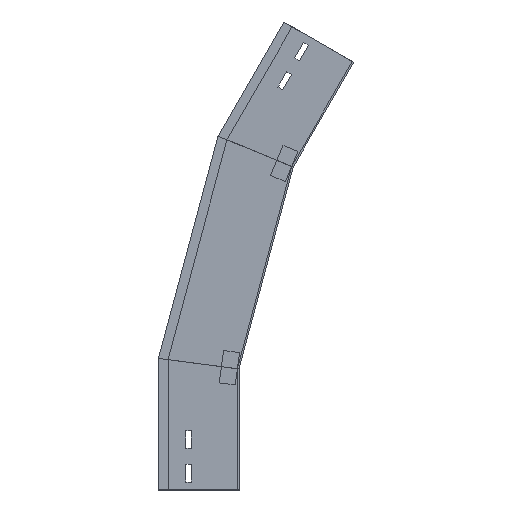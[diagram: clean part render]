
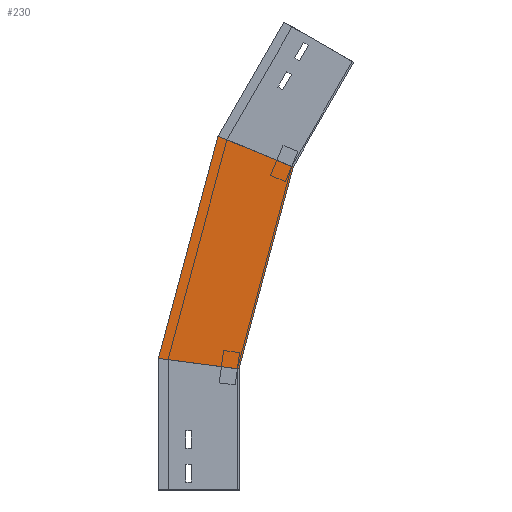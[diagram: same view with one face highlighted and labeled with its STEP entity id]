
A CAD part, left-side view. The second image highlights one B-rep face of the part: STEP entity #230.
In plain terms, the highlighted planar face has unit normal (-1, 0, 0) as drawn and (1, 0, 0) by its records, which use the part's own axes.
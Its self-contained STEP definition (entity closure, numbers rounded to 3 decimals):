
#6 = AXIS2_PLACEMENT_3D ( 'NONE', #614, #499, #31 ) ;
#31 = DIRECTION ( 'NONE',  ( 0., 0., -1. ) ) ;
#97 = DIRECTION ( 'NONE',  ( 0., -0.924, -0.383 ) ) ;
#142 = EDGE_LOOP ( 'NONE', ( #966, #1103, #287, #1403 ) ) ;
#201 = VERTEX_POINT ( 'NONE', #1292 ) ;
#230 = ADVANCED_FACE ( 'NONE', ( #250 ), #715, .T. ) ;
#241 = DIRECTION ( 'NONE',  ( 0., -0.259, 0.966 ) ) ;
#250 = FACE_OUTER_BOUND ( 'NONE', #142, .T. ) ;
#287 = ORIENTED_EDGE ( 'NONE', *, *, #992, .F. ) ;
#334 = CARTESIAN_POINT ( 'NONE',  ( 0., 0., 150. ) ) ;
#342 = LINE ( 'NONE', #702, #717 ) ;
#382 = VECTOR ( 'NONE', #779, 1000. ) ;
#487 = EDGE_CURVE ( 'NONE', #1460, #1183, #342, .T. ) ;
#499 = DIRECTION ( 'NONE',  ( 1., 0., 0. ) ) ;
#614 = CARTESIAN_POINT ( 'NONE',  ( 0., 3.774, 135.915 ) ) ;
#622 = EDGE_CURVE ( 'NONE', #201, #1460, #1232, .T. ) ;
#632 = VECTOR ( 'NONE', #241, 1000. ) ;
#643 = CARTESIAN_POINT ( 'NONE',  ( 0., -67.034, 400.175 ) ) ;
#702 = CARTESIAN_POINT ( 'NONE',  ( 0., -100.025, 386.509 ) ) ;
#715 = PLANE ( 'NONE',  #6 ) ;
#717 = VECTOR ( 'NONE', #97, 1000. ) ;
#752 = VECTOR ( 'NONE', #822, 1000. ) ;
#772 = CARTESIAN_POINT ( 'NONE',  ( 0., 100.367, 161.797 ) ) ;
#779 = DIRECTION ( 'NONE',  ( 0., -0.259, 0.966 ) ) ;
#815 = LINE ( 'NONE', #928, #632 ) ;
#822 = DIRECTION ( 'NONE',  ( 0., -0.991, -0.131 ) ) ;
#913 = EDGE_CURVE ( 'NONE', #201, #1169, #1440, .T. ) ;
#928 = CARTESIAN_POINT ( 'NONE',  ( 0., 3.774, 135.915 ) ) ;
#959 = CARTESIAN_POINT ( 'NONE',  ( 0., -19.411, 147.444 ) ) ;
#966 = ORIENTED_EDGE ( 'NONE', *, *, #622, .T. ) ;
#992 = EDGE_CURVE ( 'NONE', #1169, #1183, #815, .T. ) ;
#1103 = ORIENTED_EDGE ( 'NONE', *, *, #487, .T. ) ;
#1169 = VERTEX_POINT ( 'NONE', #334 ) ;
#1183 = VERTEX_POINT ( 'NONE', #643 ) ;
#1232 = LINE ( 'NONE', #772, #382 ) ;
#1292 = CARTESIAN_POINT ( 'NONE',  ( 0., 100., 163.165 ) ) ;
#1403 = ORIENTED_EDGE ( 'NONE', *, *, #913, .F. ) ;
#1440 = LINE ( 'NONE', #959, #752 ) ;
#1460 = VERTEX_POINT ( 'NONE', #1464 ) ;
#1464 = CARTESIAN_POINT ( 'NONE',  ( 0., 26.151, 438.773 ) ) ;
